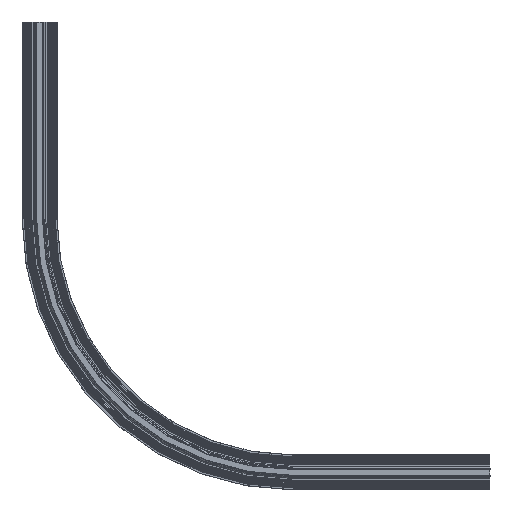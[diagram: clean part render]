
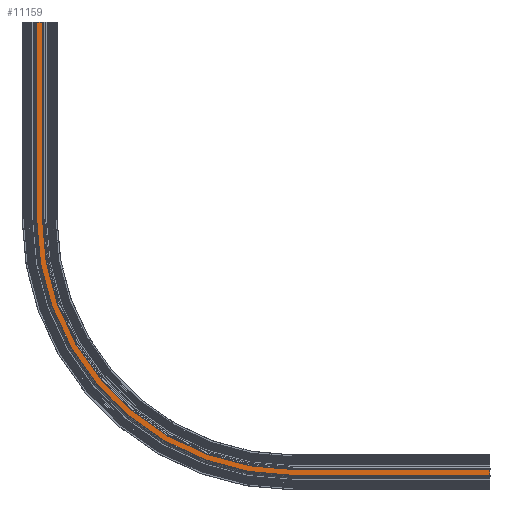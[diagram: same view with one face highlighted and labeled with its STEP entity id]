
A CAD part, front view. The second image highlights one B-rep face of the part: STEP entity #11159.
In plain terms, the highlighted planar face has unit normal (0, -1, 0).
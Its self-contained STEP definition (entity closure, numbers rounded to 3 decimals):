
#139 = CARTESIAN_POINT ( 'NONE',  ( 300., 3., -250. ) ) ;
#186 = DIRECTION ( 'NONE',  ( 0., 0., -1. ) ) ;
#414 = DIRECTION ( 'NONE',  ( 1., 0., 0. ) ) ;
#611 = VERTEX_POINT ( 'NONE', #7231 ) ;
#746 = CARTESIAN_POINT ( 'NONE',  ( -18.6, 3., 0. ) ) ;
#1073 = PLANE ( 'NONE',  #5152 ) ;
#1641 = ORIENTED_EDGE ( 'NONE', *, *, #8117, .T. ) ;
#1712 = CARTESIAN_POINT ( 'NONE',  ( 550., 3., -568.6 ) ) ;
#1752 = LINE ( 'NONE', #2842, #9790 ) ;
#2033 = EDGE_CURVE ( 'NONE', #611, #9130, #6618, .T. ) ;
#2066 = ORIENTED_EDGE ( 'NONE', *, *, #5516, .T. ) ;
#2162 = VERTEX_POINT ( 'NONE', #6342 ) ;
#2522 = DIRECTION ( 'NONE',  ( 0., 0., -1. ) ) ;
#2842 = CARTESIAN_POINT ( 'NONE',  ( 550., 3., -568.6 ) ) ;
#2939 = DIRECTION ( 'NONE',  ( 1., 0., 0. ) ) ;
#3093 = CARTESIAN_POINT ( 'NONE',  ( 300., 3., -575.9 ) ) ;
#3723 = AXIS2_PLACEMENT_3D ( 'NONE', #139, #10121, #3866 ) ;
#3866 = DIRECTION ( 'NONE',  ( -1., 0., 0. ) ) ;
#4131 = ORIENTED_EDGE ( 'NONE', *, *, #7347, .F. ) ;
#4247 = CARTESIAN_POINT ( 'NONE',  ( -25.9, 3., -250. ) ) ;
#4394 = DIRECTION ( 'NONE',  ( 0., -1., 0. ) ) ;
#4651 = VERTEX_POINT ( 'NONE', #1712 ) ;
#4747 = VERTEX_POINT ( 'NONE', #13353 ) ;
#4836 = VECTOR ( 'NONE', #414, 1000. ) ;
#4873 = CARTESIAN_POINT ( 'NONE',  ( -25.9, 3., 0. ) ) ;
#5065 = CARTESIAN_POINT ( 'NONE',  ( -18.6, 3., 0. ) ) ;
#5152 = AXIS2_PLACEMENT_3D ( 'NONE', #746, #11135, #10811 ) ;
#5516 = EDGE_CURVE ( 'NONE', #2162, #6288, #11434, .T. ) ;
#5815 = EDGE_CURVE ( 'NONE', #11792, #4747, #15459, .T. ) ;
#5994 = ORIENTED_EDGE ( 'NONE', *, *, #8891, .T. ) ;
#6288 = VERTEX_POINT ( 'NONE', #14695 ) ;
#6342 = CARTESIAN_POINT ( 'NONE',  ( -18.6, 3., 0. ) ) ;
#6500 = ORIENTED_EDGE ( 'NONE', *, *, #16012, .F. ) ;
#6618 = CIRCLE ( 'NONE', #3723, 318.6 ) ;
#6751 = VECTOR ( 'NONE', #15243, 1000. ) ;
#7008 = CARTESIAN_POINT ( 'NONE',  ( 300., 3., -568.6 ) ) ;
#7052 = VECTOR ( 'NONE', #2939, 1000. ) ;
#7231 = CARTESIAN_POINT ( 'NONE',  ( -18.6, 3., -250. ) ) ;
#7347 = EDGE_CURVE ( 'NONE', #4651, #15956, #1752, .T. ) ;
#7848 = LINE ( 'NONE', #13046, #4836 ) ;
#8117 = EDGE_CURVE ( 'NONE', #4747, #15956, #11677, .T. ) ;
#8118 = ORIENTED_EDGE ( 'NONE', *, *, #5815, .T. ) ;
#8275 = ORIENTED_EDGE ( 'NONE', *, *, #14730, .F. ) ;
#8436 = CARTESIAN_POINT ( 'NONE',  ( 300., 3., -250. ) ) ;
#8891 = EDGE_CURVE ( 'NONE', #6288, #11792, #12559, .T. ) ;
#8975 = ORIENTED_EDGE ( 'NONE', *, *, #2033, .F. ) ;
#9130 = VERTEX_POINT ( 'NONE', #7008 ) ;
#9420 = DIRECTION ( 'NONE',  ( -1., 0., 0. ) ) ;
#9790 = VECTOR ( 'NONE', #186, 1000. ) ;
#9852 = CARTESIAN_POINT ( 'NONE',  ( 550., 3., -575.9 ) ) ;
#10121 = DIRECTION ( 'NONE',  ( 0., -1., 0. ) ) ;
#10811 = DIRECTION ( 'NONE',  ( 0., 0., -1. ) ) ;
#11135 = DIRECTION ( 'NONE',  ( 0., -1., 0. ) ) ;
#11159 = ADVANCED_FACE ( 'NONE', ( #12373 ), #1073, .T. ) ;
#11434 = LINE ( 'NONE', #15161, #6751 ) ;
#11677 = LINE ( 'NONE', #3093, #7052 ) ;
#11792 = VERTEX_POINT ( 'NONE', #4247 ) ;
#12306 = VECTOR ( 'NONE', #16299, 1000. ) ;
#12373 = FACE_OUTER_BOUND ( 'NONE', #13572, .T. ) ;
#12559 = LINE ( 'NONE', #4873, #12306 ) ;
#13046 = CARTESIAN_POINT ( 'NONE',  ( 300., 3., -568.6 ) ) ;
#13322 = VECTOR ( 'NONE', #2522, 1000. ) ;
#13353 = CARTESIAN_POINT ( 'NONE',  ( 300., 3., -575.9 ) ) ;
#13572 = EDGE_LOOP ( 'NONE', ( #5994, #8118, #1641, #4131, #8275, #8975, #6500, #2066 ) ) ;
#13887 = AXIS2_PLACEMENT_3D ( 'NONE', #8436, #4394, #9420 ) ;
#14064 = LINE ( 'NONE', #5065, #13322 ) ;
#14695 = CARTESIAN_POINT ( 'NONE',  ( -25.9, 3., 0. ) ) ;
#14730 = EDGE_CURVE ( 'NONE', #9130, #4651, #7848, .T. ) ;
#15161 = CARTESIAN_POINT ( 'NONE',  ( -18.6, 3., 0. ) ) ;
#15243 = DIRECTION ( 'NONE',  ( -1., 0., 0. ) ) ;
#15459 = CIRCLE ( 'NONE', #13887, 325.9 ) ;
#15956 = VERTEX_POINT ( 'NONE', #9852 ) ;
#16012 = EDGE_CURVE ( 'NONE', #2162, #611, #14064, .T. ) ;
#16299 = DIRECTION ( 'NONE',  ( 0., 0., -1. ) ) ;
